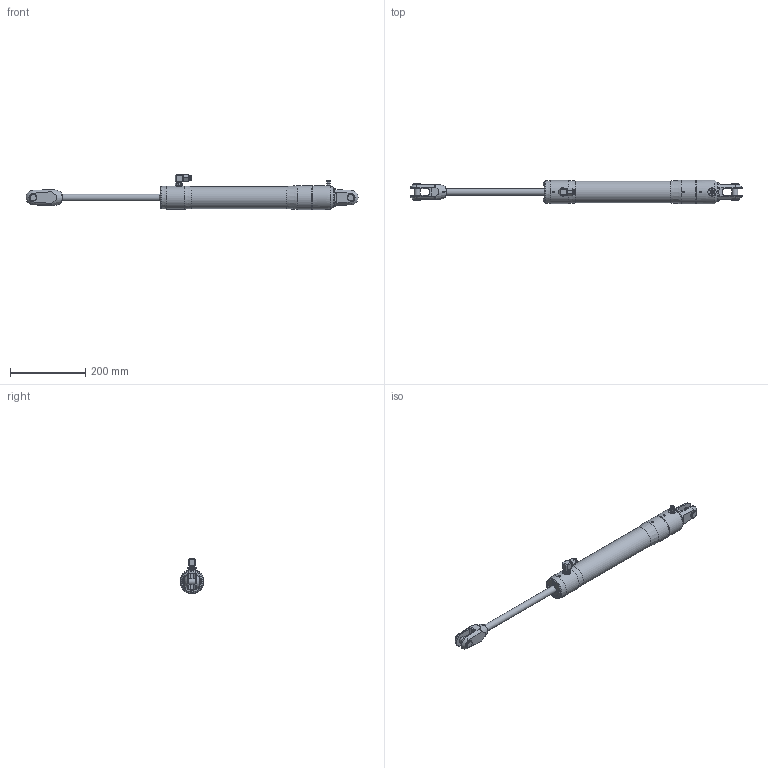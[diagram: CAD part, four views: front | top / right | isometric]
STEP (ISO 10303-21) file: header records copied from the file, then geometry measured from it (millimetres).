
FILE_DESCRIPTION(/* description */ (''),/* implementation_level */ '2;1');
FILE_NAME(/* name */ 'Q:\AA BRAND HYDRAULICS\HYDRAULICS FAMILY DIRECTORY\HYDRAULICS\CYLINDERS\RAMS\STAINLESS - STANDARD SINGLE ACTING (-0006 To -0260)\RSS-0017-S0260-NP-71\RSS-0017-S0260-NP-71 (Open).stp',/* time_stamp */ '2018-02-06T11:36:58+00:00',/* author */ ('Lorena'),/* organization */ (''),/* preprocessor_version */ 'ST-DEVELOPER v17',/* originating_system */ 'Autodesk Inventor 2018',/* authorisation */ '');
FILE_SCHEMA (('AUTOMOTIVE_DESIGN { 1 0 10303 214 3 1 1 }'));
Length unit declared in the file: millimetre
Products named in the file (1): RSS-71_Shrinkwrap_1
Bounding box: 882.05 x 63.4 x 93.2 mm (x, y, z)
Volume: 1537726.2 mm3; surface area: 141306.8 mm2
Topology: 2 solids, 4 shells, 1773 faces, 4782 edges, 3168 vertices
Faces by surface type: plane 1000, bspline 574, cone 108, cylinder 83, torus 4, sphere 4
Full cylindrical faces by diameter (mm): 4 x1, 4.2 x2, 4.4 x1, 5 x1, 5.1 x1, 7 x1, 9 x1, 10 x2, 11.11 x1, 11.157 x1, 11.5 x1, 11.8 x1, 12 x3, 12.157 x1, 13 x1, 13.157 x2, 14.5 x2, 15.88 x2, 18 x1, 18.3 x3, 19.85 x2, 20 x1, 56.8 x1, 58.4 x1, 61.4 x1, 62.4 x1, 63.4 x2
Entity records: 63210 total; most frequent: CARTESIAN_POINT 20933, ORIENTED_EDGE 9552, DIRECTION 6263, EDGE_CURVE 4776, VERTEX_POINT 3169, LINE 2967, VECTOR 2967, EDGE_LOOP 1939
